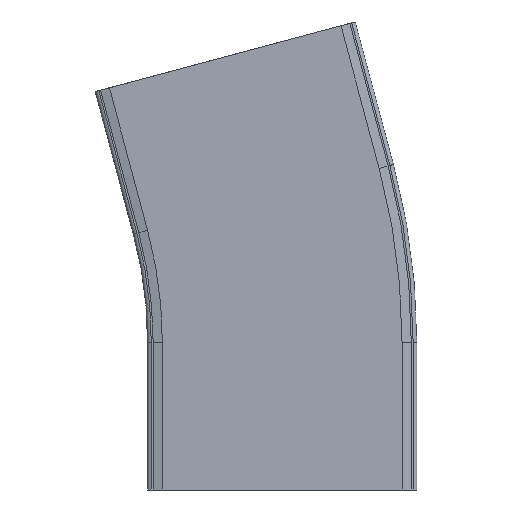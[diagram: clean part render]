
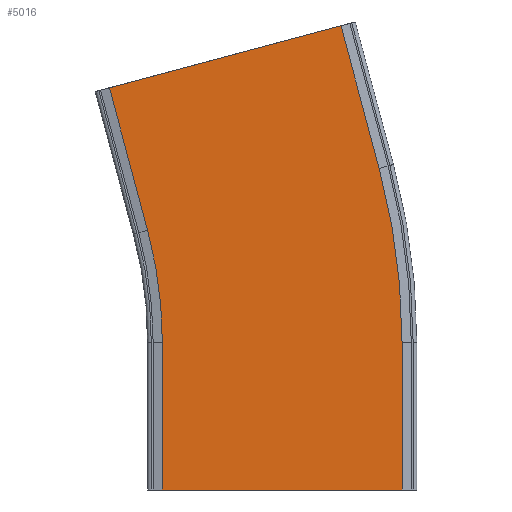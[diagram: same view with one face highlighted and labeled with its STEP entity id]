
A CAD part, front view. The second image highlights one B-rep face of the part: STEP entity #5016.
In plain terms, the highlighted planar face has unit normal (0, -1, 0).
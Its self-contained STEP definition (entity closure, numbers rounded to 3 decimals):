
#4773=CARTESIAN_POINT('',(104.,-74.,0.0));
#4774=VERTEX_POINT('',#4773);
#4781=CARTESIAN_POINT('',(-26.,-74.,0.0));
#4782=VERTEX_POINT('',#4781);
#4783=CARTESIAN_POINT('',(-26.,-74.,0.0));
#4784=DIRECTION('',(1.0,0.0,0.0));
#4785=VECTOR('',#4784,130.);
#4786=LINE('',#4783,#4785);
#4787=EDGE_CURVE('',#4782,#4774,#4786,.T.);
#4842=CARTESIAN_POINT('',(-26.,-74.,80.0));
#4843=VERTEX_POINT('',#4842);
#4852=CARTESIAN_POINT('',(-26.,-74.,0.0));
#4853=DIRECTION('',(0.0,0.0,1.0));
#4854=VECTOR('',#4853,80.0);
#4855=LINE('',#4852,#4854);
#4856=EDGE_CURVE('',#4782,#4843,#4855,.T.);
#4866=CARTESIAN_POINT('',(104.,-74.,80.0));
#4867=VERTEX_POINT('',#4866);
#4876=CARTESIAN_POINT('',(104.,-74.,0.0));
#4877=DIRECTION('',(0.0,0.0,1.0));
#4878=VECTOR('',#4877,80.0);
#4879=LINE('',#4876,#4878);
#4880=EDGE_CURVE('',#4774,#4867,#4879,.T.);
#4899=CARTESIAN_POINT('',(-34.007,-74.,140.822));
#4900=VERTEX_POINT('',#4899);
#4915=CARTESIAN_POINT('',(-261.,-74.,80.0));
#4916=DIRECTION('',(0.0,-1.0,0.0));
#4917=DIRECTION('',(1.0,0.0,0.0));
#4918=AXIS2_PLACEMENT_3D('',#4915,#4916,#4917);
#4919=CIRCLE('',#4918,235.);
#4920=EDGE_CURVE('',#4843,#4900,#4919,.T.);
#4974=CARTESIAN_POINT('',(132.596,-74.,21.331));
#4975=DIRECTION('',(0.0,-1.0,0.0));
#4976=DIRECTION('',(0.259,0.0,-0.966));
#4977=AXIS2_PLACEMENT_3D('',#4974,#4975,#4976);
#4978=PLANE('',#4977);
#4979=CARTESIAN_POINT('',(70.857,-74.,251.743));
#4980=VERTEX_POINT('',#4979);
#4981=CARTESIAN_POINT('',(-54.713,-74.0,218.097));
#4982=VERTEX_POINT('',#4981);
#4983=CARTESIAN_POINT('',(70.857,-74.,251.743));
#4984=DIRECTION('',(-0.966,0.,-0.259));
#4985=VECTOR('',#4984,130.);
#4986=LINE('',#4983,#4985);
#4987=EDGE_CURVE('',#4980,#4982,#4986,.T.);
#4988=ORIENTED_EDGE('',*,*,#4987,.T.);
#4989=CARTESIAN_POINT('',(-34.007,-74.0,140.822));
#4990=DIRECTION('',(-0.259,0.,0.966));
#4991=VECTOR('',#4990,80.);
#4992=LINE('',#4989,#4991);
#4993=EDGE_CURVE('',#4900,#4982,#4992,.T.);
#4994=ORIENTED_EDGE('',*,*,#4993,.F.);
#4995=ORIENTED_EDGE('',*,*,#4920,.F.);
#4996=ORIENTED_EDGE('',*,*,#4856,.F.);
#4997=ORIENTED_EDGE('',*,*,#4787,.T.);
#4998=ORIENTED_EDGE('',*,*,#4880,.T.);
#4999=CARTESIAN_POINT('',(91.563,-74.,174.469));
#5000=VERTEX_POINT('',#4999);
#5001=CARTESIAN_POINT('',(-261.,-74.,80.0));
#5002=DIRECTION('',(0.0,-1.0,0.0));
#5003=DIRECTION('',(1.0,0.0,0.0));
#5004=AXIS2_PLACEMENT_3D('',#5001,#5002,#5003);
#5005=CIRCLE('',#5004,365.);
#5006=EDGE_CURVE('',#4867,#5000,#5005,.T.);
#5007=ORIENTED_EDGE('',*,*,#5006,.T.);
#5008=CARTESIAN_POINT('',(91.563,-74.,174.469));
#5009=DIRECTION('',(-0.259,0.,0.966));
#5010=VECTOR('',#5009,80.);
#5011=LINE('',#5008,#5010);
#5012=EDGE_CURVE('',#5000,#4980,#5011,.T.);
#5013=ORIENTED_EDGE('',*,*,#5012,.T.);
#5014=EDGE_LOOP('',(#4988,#4994,#4995,#4996,#4997,#4998,#5007,#5013));
#5015=FACE_OUTER_BOUND('',#5014,.T.);
#5016=ADVANCED_FACE('',(#5015),#4978,.T.);
